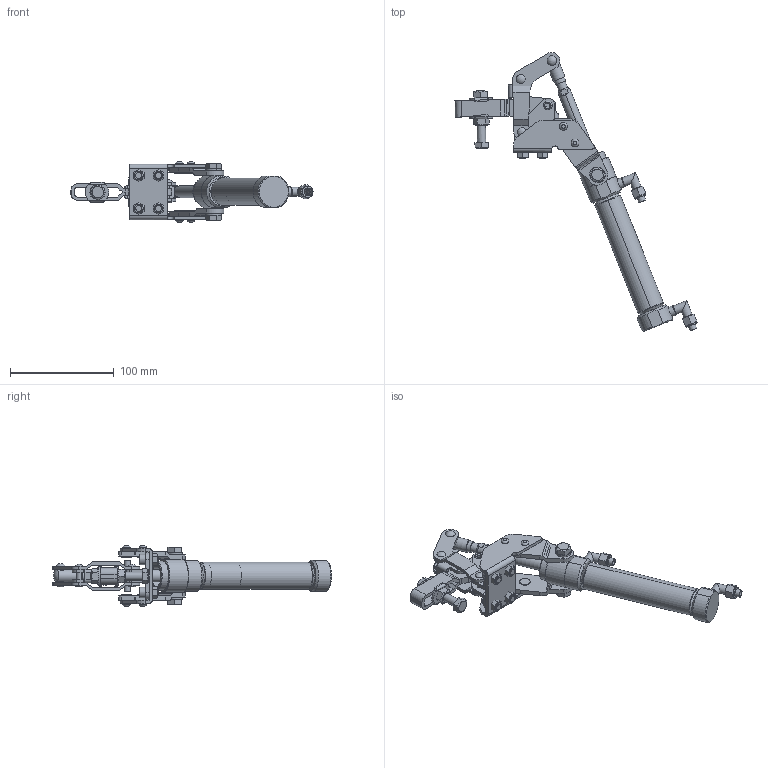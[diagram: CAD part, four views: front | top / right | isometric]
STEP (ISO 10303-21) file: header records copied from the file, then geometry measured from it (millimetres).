
FILE_DESCRIPTION(/* description */ (''),/* implementation_level */ '2;1');
FILE_NAME(/* name */ 'E:\3D作業領域\エアークランプ（スタンダード置替）\AC451Ｖ\No.AC451V.stp',/* time_stamp */ '2024-04-15T15:00:24+09:00',/* author */ ('takahashi'),/* organization */ (''),/* preprocessor_version */ 'ST-DEVELOPER v18.1',/* originating_system */ 'Autodesk Inventor 2020',/* authorisation */ '');
FILE_SCHEMA (('AUTOMOTIVE_DESIGN { 1 0 10303 214 3 1 1 }'));
Length unit declared in the file: millimetre
Products named in the file (32): No.AC451V; AC451フレーム; AC450シリンダー支持ボルト; AC450シリンダー支持ボルト_
1; M8SW; AC451フレームリベット; HV450ベース（リベットアセンブリ済）; HV450ベース; リベット5x12.55; AC451レバー; AC451レバー_1; AC451連結管部リベット; リベット5x19; HV450リンク（リベットアセンブリ済）; HV450リンク; リベット5x12.81; HV450アーム; AC451S AC56Sシリンダー; CMK2-00-25-80-T0H-D-V_6; ニップルL型; ニップルL型_1; 袋ナット; スリーブb; Φ25用取付金具; AC451S AC56S ピストンロッド; AC451S AC56Sピストンロッド; AC56 AC451連結管; キャップスクリューM6; M6ナット; M8×50ボルト; M8ナット; HV450ワッシャー
Assembly tree (44 placements, depth 4):
  No.AC451V
    AC451フレーム
    AC450シリンダー支持ボルト  x2
      AC450シリンダー支持ボルト_
1
      M8SW
    AC451フレームリベット  x4
    HV450ベース（リベットアセンブリ済）
      HV450ベース
      リベット5x12.55
    AC451レバー
      AC451レバー_1
      AC451連結管部リベット
      リベット5x19  x2
    HV450リンク（リベットアセンブリ済）
      HV450リンク
      リベット5x12.81
    HV450アーム
    AC451S AC56Sシリンダー
      CMK2-00-25-80-T0H-D-V_6
      ニップルL型  x2
        ニップルL型_1
        袋ナット
        スリーブb
      Φ25用取付金具
    AC451S AC56S ピストンロッド
      AC451S AC56Sピストンロッド
      AC56 AC451連結管
    キャップスクリューM6  x4
    M6ナット  x4
    M8×50ボルト
    M8ナット  x2
    HV450ワッシャー
Bounding box: 233.35 x 269.1 x 58.1 mm (x, y, z)
Volume: 164949.9 mm3; surface area: 110096.1 mm2
Topology: 42 solids, 42 shells, 741 faces, 1784 edges, 1187 vertices
Faces by surface type: plane 398, cylinder 251, cone 71, torus 9, bspline 6, sphere 6
Full cylindrical faces by diameter (mm): 3 x2, 3.4 x2, 4 x2, 4.1 x2, 4.5 x4, 4.99 x4, 5 x16, 5.9 x2, 5.99 x1, 6 x22, 6.1 x4, 6.5 x2, 7 x6, 7.1 x4, 7.3 x2, 7.5 x4, 7.647 x1, 8 x7, 8.2 x3, 8.45 x2, 8.5 x6, 9 x2, 9.7 x2, 10 x12, 10.5 x1, 11 x2, 12 x1, 15 x2, 21.8 x1, 26 x1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
Entity records: 19024 total; most frequent: CARTESIAN_POINT 3786, DIRECTION 3136, ORIENTED_EDGE 2794, EDGE_CURVE 1397, AXIS2_PLACEMENT_3D 1201, VERTEX_POINT 927, LINE 734, VECTOR 734
